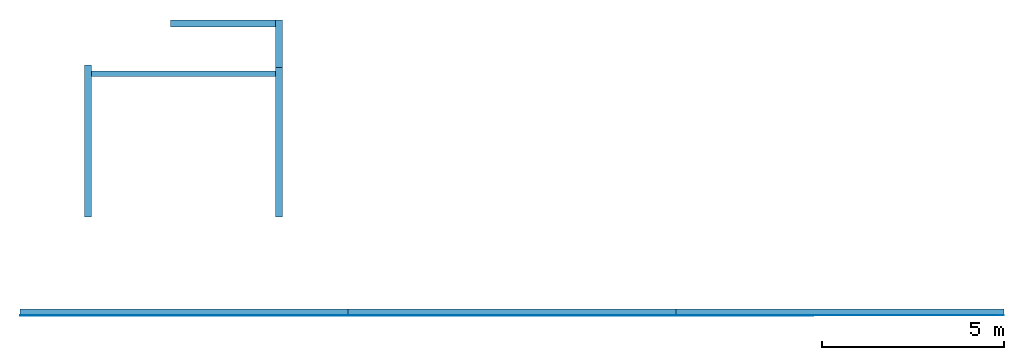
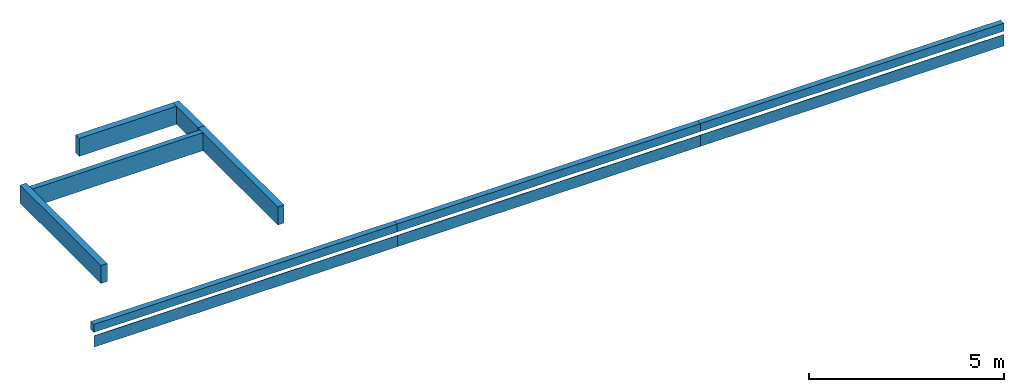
# One storey: 11 walls.
"""IFC2X3 building model written with IfcOpenShell, lengths in millimetres."""

import ifcopenshell
import ifcopenshell.guid

model = None  # the IFC model being written
_history = None  # IfcOwnerHistory: only IFC2X3 demands one
_inside = {}  # id of a spatial element -> (the spatial element, [elements in it])
_under = {}  # id of a project, library or spatial element -> (it, [spatial elements below it])
_declared = {}  # id of a project -> (the project, [libraries it declares])
_typed = {}  # id of a type object -> (the type object, [elements of that type])
_made_of = {}  # id of a material, layer set ... -> (it, [elements and type objects made of it])


def new_model(schema):
    """Start an empty IFC model of exactly this schema.

    Asked for "IFC4X3", IfcOpenShell would pick the latest addendum, in which some entities
    have other attributes; the version numbers below select the first issue.
    IFC2X3 requires an IfcOwnerHistory on every rooted entity: one is made here for all.
    """
    global model, _history
    if schema == "IFC4X3":
        model = ifcopenshell.file(schema_version=(4, 3, 0, 0))
    else:
        model = ifcopenshell.file(schema=schema)
    _inside.clear()
    _under.clear()
    _declared.clear()
    _typed.clear()
    _made_of.clear()
    _history = None
    if model.schema == "IFC2X3":
        org = make("IfcOrganization", Name="unknown")
        user = make(
            "IfcPersonAndOrganization",
            ThePerson=make("IfcPerson", FamilyName="unknown"),
            TheOrganization=org,
        )
        app = make(
            "IfcApplication",
            ApplicationDeveloper=org,
            Version="unknown",
            ApplicationFullName="unknown",
            ApplicationIdentifier="unknown",
        )
        _history = make(
            "IfcOwnerHistory",
            OwningUser=user,
            OwningApplication=app,
            ChangeAction="ADDED",
            CreationDate=0,
        )
    return model


def make(cls, **values):
    """One entity of the class cls with the attributes given. An attribute that is None is left unset."""
    return model.create_entity(
        cls, **{name: value for name, value in values.items() if value is not None}
    )


def entity(cls, *values):
    """Any entity or typed value of the class cls, its attributes in the order of the schema. None: left unset."""
    e = model.create_entity(cls)
    for i, value in enumerate(values):
        if value is not None:
            e[i] = value
    return e


def rooted(cls, **values):
    """An entity with a GlobalId (a new one), such as an element, a storey or a relation."""
    return make(cls, GlobalId=ifcopenshell.guid.new(), OwnerHistory=_history, **values)


def si_unit(unit_type, name, prefix=None):
    """IfcSIUnit, for example si_unit("LENGTHUNIT", "METRE", prefix="MILLI")."""
    return make("IfcSIUnit", UnitType=unit_type, Prefix=prefix, Name=name)


def converted_unit(unit_type, name, factor, base, dimensions=None, offset=None):
    """IfcConversionBasedUnit, such as the inch: factor (a typed value) times the base unit."""
    return make(
        "IfcConversionBasedUnit"
        if offset is None
        else "IfcConversionBasedUnitWithOffset",
        ConversionOffset=offset,
        Dimensions=None
        if dimensions is None
        else entity("IfcDimensionalExponents", *dimensions),
        UnitType=unit_type,
        Name=name,
        ConversionFactor=make(
            "IfcMeasureWithUnit", ValueComponent=factor, UnitComponent=base
        ),
    )


def derived_unit(unit_type, elements):
    """IfcDerivedUnit: a product of units, each with its exponent."""
    return make(
        "IfcDerivedUnit",
        Elements=[
            make("IfcDerivedUnitElement", Unit=unit, Exponent=power)
            for unit, power in elements
        ],
        UnitType=unit_type,
    )


def assignment(units):
    """IfcUnitAssignment: the units of a project."""
    return None if units is None else make("IfcUnitAssignment", Units=units)


def point(xyz):
    """IfcCartesianPoint."""
    return None if xyz is None else make("IfcCartesianPoint", Coordinates=xyz)


def direction(xyz):
    """IfcDirection."""
    return None if xyz is None else make("IfcDirection", DirectionRatios=xyz)


def frame(location, z_axis=None, x_axis=None):
    """IfcAxis2Placement3D, a coordinate frame: its origin and axes. An axis left out is left unset."""
    return make(
        "IfcAxis2Placement3D",
        Location=point(location),
        Axis=direction(z_axis),
        RefDirection=direction(x_axis),
    )


def frame_2d(location, x_axis=None):
    """IfcAxis2Placement2D, a coordinate frame in the plane: its origin and x axis."""
    return make(
        "IfcAxis2Placement2D", Location=point(location), RefDirection=direction(x_axis)
    )


def origin():
    """The frame at (0, 0, 0) with its axes left unset."""
    return frame((0.0, 0.0, 0.0))


def origin_with_axes():
    """The frame at (0, 0, 0) with the z axis (0, 0, 1) and the x axis (1, 0, 0) written out."""
    return frame((0.0, 0.0, 0.0), z_axis=(0.0, 0.0, 1.0), x_axis=(1.0, 0.0, 0.0))


def place(relative_to, where):
    """IfcLocalPlacement: puts the frame where relative to a parent placement (None: the world)."""
    return make(
        "IfcLocalPlacement", PlacementRelTo=relative_to, RelativePlacement=where
    )


def context(
    kind, dimensions, precision=None, world=None, true_north=None, identifier=None
):
    """IfcGeometricRepresentationContext, for example the 3D "Model" context."""
    return make(
        "IfcGeometricRepresentationContext",
        ContextIdentifier=identifier,
        ContextType=kind,
        CoordinateSpaceDimension=dimensions,
        Precision=precision,
        WorldCoordinateSystem=world,
        TrueNorth=true_north,
    )


def subcontext(parent, identifier, kind, view, scale=None):
    """IfcGeometricRepresentationSubContext, for example "Body" below "Model"."""
    return make(
        "IfcGeometricRepresentationSubContext",
        ContextIdentifier=identifier,
        ContextType=kind,
        ParentContext=parent,
        TargetScale=scale,
        TargetView=view,
    )


def project(units=None, contexts=None):
    """IfcProject with its units and contexts."""
    return rooted(
        "IfcProject",
        Name="project",
        RepresentationContexts=contexts,
        UnitsInContext=assignment(units),
    )


def spatial(cls, under=None, at=None, **own):
    """A site, building, storey or space (cls), placed at a placement, below another one or the project."""
    s = rooted(cls, ObjectPlacement=at, **own)
    if under is not None:
        _under.setdefault(under.id(), (under, []))[1].append(s)
    return s


def profile(cls, at=None, kind="AREA", **sizes):
    """A parametric profile (cls). Its sizes go by their IFC names, for example OverallWidth=200.0."""
    return make(cls, ProfileType=kind, Position=at, **sizes)


def rectangle(**sizes):
    """IfcRectangleProfileDef."""
    return profile("IfcRectangleProfileDef", **sizes)


def extrude(swept, where, along, depth):
    """IfcExtrudedAreaSolid: the profile swept, set in the frame where, extruded along a direction by depth."""
    return make(
        "IfcExtrudedAreaSolid",
        SweptArea=swept,
        Position=where,
        ExtrudedDirection=direction(along),
        Depth=depth,
    )


def faces_of(points, faces, orient=None, outer=None):
    """IfcFace entities. A face is a list of loops; a loop is a list of indices into points, from 0.

    orient and outer hold one flag for each loop. By default every Orientation is true, the
    first loop of a face is its IfcFaceOuterBound and the others are IfcFaceBound.
    """
    made = []
    for i, loops in enumerate(faces):
        bounds = []
        for j, loop in enumerate(loops):
            is_outer = j == 0 if outer is None else outer[i][j]
            bounds.append(
                make(
                    "IfcFaceOuterBound" if is_outer else "IfcFaceBound",
                    Bound=make("IfcPolyLoop", Polygon=[points[k] for k in loop]),
                    Orientation=True if orient is None else orient[i][j],
                )
            )
        made.append(make("IfcFace", Bounds=bounds))
    return made


def faceted_brep(points, faces, orient=None, outer=None, voids=None):
    """IfcFacetedBrep: a solid bounded by flat faces; with voids (closed shells), ...WithVoids."""
    shared = [point(p) for p in points]
    hull = make("IfcClosedShell", CfsFaces=faces_of(shared, faces, orient, outer))
    if voids is None:
        return make("IfcFacetedBrep", Outer=hull)
    return make(
        "IfcFacetedBrepWithVoids",
        Outer=hull,
        Voids=[
            make(cls, CfsFaces=faces_of(shared, fs, o, b)) for cls, fs, o, b in voids
        ],
    )


def shape(context_of_items, identifier, shape_type, items):
    """IfcShapeRepresentation: the items that make up one representation, for example the "Body"."""
    return make(
        "IfcShapeRepresentation",
        ContextOfItems=context_of_items,
        RepresentationIdentifier=identifier,
        RepresentationType=shape_type,
        Items=items,
    )


def material(Name=None, Category=None):
    """IfcMaterial."""
    return make("IfcMaterial", Name=Name, Category=Category)


def layer(
    of_material, thickness, ventilated=None, Name=None, Category=None, Priority=None
):
    """IfcMaterialLayer: one layer of a wall or slab, of a material (None: an air gap)."""
    return make(
        "IfcMaterialLayer",
        Material=of_material,
        LayerThickness=thickness,
        IsVentilated=ventilated,
        Name=Name,
        Category=Category,
        Priority=Priority,
    )


def layer_set(layers, Name=None):
    """IfcMaterialLayerSet."""
    return make("IfcMaterialLayerSet", MaterialLayers=layers, LayerSetName=Name)


def layer_usage(for_layer_set, set_direction, sense, offset, extent=None):
    """IfcMaterialLayerSetUsage: how a layer set lies in its element."""
    return make(
        "IfcMaterialLayerSetUsage",
        ForLayerSet=for_layer_set,
        LayerSetDirection=set_direction,
        DirectionSense=sense,
        OffsetFromReferenceLine=offset,
        ReferenceExtent=extent,
    )


def made_of(thing, what):
    """Note that an element or type object is made of a material, layer set ...; save() writes the relation."""
    if what is not None:
        _made_of.setdefault(what.id(), (what, []))[1].append(thing)
    return thing


def type_object(cls, material=None, **own):
    """A type object (cls), such as IfcWallType, which elements share."""
    return made_of(rooted(cls, **own), material)


def element(
    cls,
    number,
    at=None,
    inside=None,
    cuts=None,
    type_object=None,
    material=None,
    context=None,
    identifier="Body",
    shape_type=None,
    held_by="IfcProductDefinitionShape",
    body=None,
    shapes=None,
    **own,
):
    """One element of the class cls, such as IfcWall. Its Tag is "e" and its number.

    at: its placement. inside: the storey or other place that contains it. cuts: it is an
    opening in that element (IfcRelVoidsElement). A single representation is given by context,
    identifier, shape_type and body (its items); several are given by shapes. held_by: the class
    of the entity that holds the representations. save() writes the other relations.
    """
    e = rooted(cls, Tag="e%d" % number, ObjectPlacement=at, **own)
    if body is not None:
        shapes = [shape(context, identifier, shape_type, body)]
    if shapes is not None:
        e.Representation = make(held_by, Representations=shapes)
    if inside is not None:
        _inside.setdefault(inside.id(), (inside, []))[1].append(e)
    if cuts is not None:
        rooted(
            "IfcRelVoidsElement", RelatingBuildingElement=cuts, RelatedOpeningElement=e
        )
    if type_object is not None:
        _typed.setdefault(type_object.id(), (type_object, []))[1].append(e)
    return made_of(e, material)


def aggregate(whole, parts):
    """IfcRelAggregates: a whole, such as a stair, and the parts it consists of."""
    return rooted("IfcRelAggregates", RelatingObject=whole, RelatedObjects=parts)


def save(model, path):
    """Write the relations noted so far, then the file.

    IfcRelAggregates (storeys below a building ...), IfcRelContainedInSpatialStructure (elements
    in a storey), IfcRelDefinesByType, IfcRelAssociatesMaterial and IfcRelDeclares: one each for
    every whole, place, type object, material and project.
    """
    for whole, parts in _under.values():
        aggregate(whole, parts)
    for where, things in _inside.values():
        rooted(
            "IfcRelContainedInSpatialStructure",
            RelatedElements=things,
            RelatingStructure=where,
        )
    for kind, things in _typed.values():
        rooted("IfcRelDefinesByType", RelatedObjects=things, RelatingType=kind)
    for what, things in _made_of.values():
        rooted("IfcRelAssociatesMaterial", RelatedObjects=things, RelatingMaterial=what)
    for by, libraries in _declared.values():
        rooted("IfcRelDeclares", RelatingContext=by, RelatedDefinitions=libraries)
    model.write(path)


model = new_model("IFC2X3")

# Units and contexts
model_context = context("Model", 3, precision=0.01, world=frame((0.0, 4.29681676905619e-09, 0.0)), true_north=direction((4.01073788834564e-13, 1.0)))
plan_context = context("Plan", 3, precision=0.01, world=frame((0.0, 4.29681676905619e-09, 0.0)), true_north=direction((4.01073788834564e-13, 1.0)))
body_context = subcontext(model_context, "Body", "Model", "MODEL_VIEW")
ifc_project = project(units=[converted_unit("PLANEANGLEUNIT", "DEGREE", entity("IfcPositiveLengthMeasure", 0.0174532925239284), si_unit("PLANEANGLEUNIT", "RADIAN"), dimensions=[0, 0, 0, 0, 0, 0, 0]), si_unit("AREAUNIT", "SQUARE_METRE"), si_unit("LENGTHUNIT", "METRE", prefix="MILLI"), si_unit("MASSUNIT", "GRAM", prefix="KILO"), si_unit("POWERUNIT", "WATT"), si_unit("PRESSUREUNIT", "PASCAL", prefix="KILO"), si_unit("FORCEUNIT", "NEWTON", prefix="KILO"), si_unit("ELECTRICVOLTAGEUNIT", "VOLT"), si_unit("ELECTRICCURRENTUNIT", "AMPERE"), si_unit("THERMODYNAMICTEMPERATUREUNIT", "DEGREE_CELSIUS"), si_unit("TIMEUNIT", "SECOND"), si_unit("VOLUMEUNIT", "CUBIC_METRE"), derived_unit("LINEARVELOCITYUNIT", [(si_unit("LENGTHUNIT", "METRE"), 1), (si_unit("TIMEUNIT", "SECOND"), -1)]), derived_unit("VOLUMETRICFLOWRATEUNIT", [(si_unit("VOLUMEUNIT", "CUBIC_METRE"), 1), (si_unit("TIMEUNIT", "SECOND"), -1)]), derived_unit("THERMALTRANSMITTANCEUNIT", [(si_unit("POWERUNIT", "WATT"), 1), (si_unit("THERMODYNAMICTEMPERATUREUNIT", "KELVIN"), -1), (si_unit("AREAUNIT", "SQUARE_METRE"), -1)]), derived_unit("SOUNDPRESSUREUNIT", [(si_unit("PRESSUREUNIT", "PASCAL"), 1)])], contexts=[model_context, plan_context])

# Site, building, storey
site_placement = place(None, origin_with_axes())
site = spatial("IfcSite", under=ifc_project, at=site_placement, Name="ENGM", CompositionType="ELEMENT")
building_placement = place(site_placement, origin_with_axes())
building = spatial("IfcBuilding", under=site, at=building_placement, Name="TG", CompositionType="ELEMENT")
storey_placement = place(building_placement, frame((0.0, 0.0, 207370.000000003), z_axis=(0.0, 0.0, 1.0), x_axis=(1.0, 0.0, 0.0)))
storey = spatial("IfcBuildingStorey", under=building, at=storey_placement, Name="Nivå E", CompositionType="ELEMENT", Elevation=207370.000000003)

# Walls
ifc_material_1 = material(Name="Betong - Multiblokk")
ifc_layer_1 = layer(ifc_material_1, 187.0)
ifc_layer_set_1 = layer_set([ifc_layer_1], Name="Basic Wall:A241 - MH-187")
wall_type_1 = type_object("IfcWallType", Name="Basic Wall:A241 - MH-187", PredefinedType="STANDARD", material=ifc_layer_set_1)
wall_1_placement = place(storey_placement, frame((329016.325000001, 466006.487499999, 0.0), z_axis=(0.0, 0.0, 1.0), x_axis=(-1.0, 0.0, 0.0)))
element("IfcWall", 1, at=wall_1_placement, inside=storey, type_object=wall_type_1, Name="Basic Wall:A241 - MH-187", ObjectType="Basic Wall:A241 - MH-187", context=body_context, shape_type="Brep", body=[
    faceted_brep([(2882.00749988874, 93.5000000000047, 1829.999999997), (2882.00749988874, -93.5000000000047, 1829.999999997), (2882.00749988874, -93.5000000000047, 2394.99999999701), (2882.00749988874, 93.5000000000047, 2394.99999999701), (0.0, 93.5000000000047, 1829.999999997), (0.0, 93.5000000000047, 2394.99999999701), (0.0, -93.5000000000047, 1829.999999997), (0.0, -93.5000000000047, 2394.99999999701)], [[[0, 1, 2, 3]], [[4, 0, 3, 5]], [[6, 4, 5, 7]], [[1, 6, 7, 2]], [[3, 2, 7, 5]], [[4, 6, 1, 0]]], orient=[[False], [False], [False], [False], [False], [False]]),
])
wall_2_placement = place(storey_placement, frame((323863.500000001, 464864.999999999, 0.0), z_axis=(0.0, 0.0, 1.0), x_axis=(0.0, -1.0, 0.0)))
element("IfcWall", 2, at=wall_2_placement, inside=storey, type_object=wall_type_1, Name="Basic Wall:A241 - MH-187", ObjectType="Basic Wall:A241 - MH-187", context=body_context, shape_type="Brep", body=[
    faceted_brep([(4164.99999999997, 93.5000000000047, 1829.999999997), (4164.99999999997, -93.5000000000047, 1829.999999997), (4164.99999999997, -93.5000000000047, 2394.99999999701), (4164.99999999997, 93.5000000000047, 2394.99999999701), (0.0, 93.5000000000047, 1829.999999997), (0.0, 93.5000000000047, 2394.99999999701), (0.0, -93.5000000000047, 1829.999999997), (0.0, -93.5000000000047, 2394.99999999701)], [[[0, 1, 2, 3]], [[4, 0, 3, 5]], [[6, 4, 5, 7]], [[1, 6, 7, 2]], [[3, 2, 7, 5]], [[4, 6, 1, 0]]], orient=[[False], [False], [False], [False], [False], [False]]),
])
wall_3_placement = place(storey_placement, frame((329109.825000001, 464797.882276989, 0.0), z_axis=(0.0, 0.0, 1.0), x_axis=(0.0, 1.0, 0.0)))
element("IfcWall", 3, at=wall_3_placement, inside=storey, type_object=wall_type_1, Name="Basic Wall:A241 - MH-187", ObjectType="Basic Wall:A241 - MH-187", context=body_context, shape_type="Brep", body=[
    faceted_brep([(1302.10522301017, 93.5000000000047, 1829.999999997), (1302.10522301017, -93.5000000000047, 1829.999999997), (1302.10522301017, -93.5000000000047, 2394.99999999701), (1302.10522301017, 93.5000000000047, 2394.99999999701), (0.0, 93.5000000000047, 1829.999999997), (0.0, 93.5000000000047, 2394.99999999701), (0.0, -93.5000000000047, 1829.999999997), (0.0, -93.5000000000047, 2394.99999999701)], [[[0, 1, 2, 3]], [[4, 0, 3, 5]], [[6, 4, 5, 7]], [[1, 6, 7, 2]], [[3, 2, 7, 5]], [[4, 6, 1, 0]]], orient=[[False], [False], [False], [False], [False], [False]]),
])
wall_4_placement = place(storey_placement, frame((329109.825000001, 460699.999999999, 0.0), z_axis=(0.0, 0.0, 1.0), x_axis=(0.0, 1.0, 0.0)))
element("IfcWall", 4, at=wall_4_placement, inside=storey, type_object=wall_type_1, Name="Basic Wall:A241 - MH-187", ObjectType="Basic Wall:A241 - MH-187", context=body_context, shape_type="Brep", body=[
    faceted_brep([(4097.88227699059, 93.5000000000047, 1829.999999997), (4097.88227699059, -93.5000000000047, 1829.999999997), (4097.88227699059, -93.5000000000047, 2394.99999999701), (4097.88227699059, 93.5000000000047, 2394.99999999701), (0.0, 93.5000000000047, 1829.999999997), (0.0, 93.5000000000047, 2394.99999999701), (0.0, -93.5000000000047, 1829.999999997), (0.0, -93.5000000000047, 2394.99999999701)], [[[0, 1, 2, 3]], [[4, 0, 3, 5]], [[6, 4, 5, 7]], [[1, 6, 7, 2]], [[3, 2, 7, 5]], [[4, 6, 1, 0]]], orient=[[False], [False], [False], [False], [False], [False]]),
])
ifc_material_2 = material(Name="Plate - Gips")
ifc_layer_2 = layer(ifc_material_2, 12.5)
ifc_layer_3 = layer(ifc_material_2, 12.5)
ifc_material_3 = material(Name="_NSW Stålstender, uisolert")
ifc_layer_4 = layer(ifc_material_3, 100.0)
ifc_layer_5 = layer(ifc_material_2, 12.5)
ifc_layer_6 = layer(ifc_material_2, 12.5)
ifc_layer_set_2 = layer_set([ifc_layer_2, ifc_layer_3, ifc_layer_4, ifc_layer_5, ifc_layer_6], Name="Basic Wall:A241 - SVS-101")
wall_type_2 = type_object("IfcWallType", Name="Basic Wall:A241 - SVS-101", PredefinedType="STANDARD", material=ifc_layer_set_2)
wall_5_placement = place(storey_placement, frame((329016.325000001, 464623.124999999, 0.0), z_axis=(0.0, 0.0, 1.0), x_axis=(-1.0, 0.0, 0.0)))
element("IfcWall", 5, at=wall_5_placement, inside=storey, type_object=wall_type_2, Name="Basic Wall:A241 - SVS-101", ObjectType="Basic Wall:A241 - SVS-101", context=body_context, shape_type="Brep", body=[
    faceted_brep([(0.0, -75.0000000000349, 1829.999999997), (0.0, 74.9999999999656, 1829.999999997), (0.0, 74.9999999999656, 2394.99999999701), (0.0, -75.0000000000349, 2394.99999999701), (5059.32500000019, -75.0000000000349, 1829.999999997), (5059.32500000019, -75.0000000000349, 2394.99999999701), (5059.32500000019, 74.9999999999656, 1829.999999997), (5059.32500000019, 74.9999999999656, 2394.99999999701)], [[[0, 1, 2, 3]], [[4, 0, 3, 5]], [[6, 4, 5, 7]], [[1, 6, 7, 2]], [[3, 2, 7, 5]], [[4, 6, 1, 0]]], orient=[[False], [False], [False], [False], [False], [False]]),
])
ifc_material_4 = material(Name="_NSW Isolasjon")
ifc_layer_7 = layer(ifc_material_4, 165.0)
ifc_layer_set_3 = layer_set([ifc_layer_7], Name="Basic Wall:A231 - ISO-165")
ifc_layer_usage_1 = layer_usage(ifc_layer_set_3, "AXIS2", "POSITIVE", -82.5)
wall_type_3 = type_object("IfcWallType", Name="Basic Wall:A231 - ISO-165", PredefinedType="STANDARD", material=ifc_layer_set_3)
wall_6_placement = place(storey_placement, frame((322000.000000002, 458082.5, 2554.99999999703), z_axis=(0.0, 0.0, 1.0), x_axis=(1.0, 0.0, 0.0)))
element("IfcWallStandardCase", 6, at=wall_6_placement, inside=storey, type_object=wall_type_3, material=ifc_layer_usage_1, Name="Basic Wall:A231 - ISO-165", ObjectType="Basic Wall:A231 - ISO-165", context=body_context, shape_type="SweptSolid", body=[
    extrude(rectangle(XDim=9000.00000000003, YDim=164.99999999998, at=frame_2d((4500.00000000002, 1.72875047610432e-11), x_axis=(-1.0, 0.0))), origin(), (0.0, 0.0, 1.0), 249.999999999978),
])
ifc_layer_usage_2 = layer_usage(ifc_layer_set_3, "AXIS2", "POSITIVE", -82.5)
wall_7_placement = place(storey_placement, frame((331000.000000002, 458082.5, 2554.99999999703), z_axis=(0.0, 0.0, 1.0), x_axis=(1.0, 0.0, 0.0)))
element("IfcWallStandardCase", 7, at=wall_7_placement, inside=storey, type_object=wall_type_3, material=ifc_layer_usage_2, Name="Basic Wall:A231 - ISO-165", ObjectType="Basic Wall:A231 - ISO-165", context=body_context, shape_type="SweptSolid", body=[
    extrude(rectangle(XDim=9000.00000000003, YDim=164.99999999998, at=frame_2d((4500.00000000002, 1.72875047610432e-11), x_axis=(-1.0, 0.0))), origin(), (0.0, 0.0, 1.0), 249.999999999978),
])
ifc_layer_usage_3 = layer_usage(ifc_layer_set_3, "AXIS2", "POSITIVE", -82.5)
wall_8_placement = place(storey_placement, frame((340000.000000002, 458082.5, 2554.99999999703), z_axis=(0.0, 0.0, 1.0), x_axis=(1.0, 0.0, 0.0)))
element("IfcWallStandardCase", 8, at=wall_8_placement, inside=storey, type_object=wall_type_3, material=ifc_layer_usage_3, Name="Basic Wall:A231 - ISO-165", ObjectType="Basic Wall:A231 - ISO-165", context=body_context, shape_type="SweptSolid", body=[
    extrude(rectangle(XDim=9000.00000000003, YDim=164.99999999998, at=frame_2d((4500.00000000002, 1.72875047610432e-11), x_axis=(-1.0, 0.0))), origin(), (0.0, 0.0, 1.0), 249.999999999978),
])
ifc_material_5 = material(Name="T2_Metal_Aluminium")
ifc_layer_8 = layer(ifc_material_5, 1.0)
ifc_material_6 = material(Name="T2_X-finer")
ifc_layer_9 = layer(ifc_material_6, 15.0)
ifc_layer_set_4 = layer_set([ifc_layer_8, ifc_layer_9], Name="Basic Wall:A231 - X-finer med beslag")
ifc_layer_usage_4 = layer_usage(ifc_layer_set_4, "AXIS2", "POSITIVE", -8.0)
wall_type_4 = type_object("IfcWallType", Name="Basic Wall:A231 - X-finer med beslag", PredefinedType="STANDARD", material=ifc_layer_set_4)
wall_9_placement = place(storey_placement, frame((322000.000000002, 457997.237500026, 2097.99999999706), z_axis=(0.0, 0.0, 1.0), x_axis=(1.0, 0.0, 0.0)))
element("IfcWallStandardCase", 9, at=wall_9_placement, inside=storey, type_object=wall_type_4, material=ifc_layer_usage_4, Name="Basic Wall:A231 - X-finer med beslag", ObjectType="Basic Wall:A231 - X-finer med beslag", context=body_context, shape_type="SweptSolid", body=[
    extrude(rectangle(XDim=9000.00000000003, YDim=15.9999999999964, at=frame_2d((4500.00000000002, -1.73594472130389e-11), x_axis=(-1.0, 0.0))), origin(), (0.0, 0.0, 1.0), 354.999999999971),
])
ifc_layer_usage_5 = layer_usage(ifc_layer_set_4, "AXIS2", "POSITIVE", -8.0)
wall_10_placement = place(storey_placement, frame((331000.000000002, 457997.237500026, 2097.99999999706), z_axis=(0.0, 0.0, 1.0), x_axis=(1.0, 0.0, 0.0)))
element("IfcWallStandardCase", 10, at=wall_10_placement, inside=storey, type_object=wall_type_4, material=ifc_layer_usage_5, Name="Basic Wall:A231 - X-finer med beslag", ObjectType="Basic Wall:A231 - X-finer med beslag", context=body_context, shape_type="SweptSolid", body=[
    extrude(rectangle(XDim=9000.00000000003, YDim=15.9999999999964, at=frame_2d((4500.00000000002, -1.73594472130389e-11), x_axis=(-1.0, 0.0))), origin(), (0.0, 0.0, 1.0), 354.999999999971),
])
ifc_layer_usage_6 = layer_usage(ifc_layer_set_4, "AXIS2", "POSITIVE", -8.0)
wall_11_placement = place(storey_placement, frame((340000.000000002, 457997.237500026, 2097.99999999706), z_axis=(0.0, 0.0, 1.0), x_axis=(1.0, 0.0, 0.0)))
element("IfcWallStandardCase", 11, at=wall_11_placement, inside=storey, type_object=wall_type_4, material=ifc_layer_usage_6, Name="Basic Wall:A231 - X-finer med beslag", ObjectType="Basic Wall:A231 - X-finer med beslag", context=body_context, shape_type="SweptSolid", body=[
    extrude(rectangle(XDim=9000.00000000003, YDim=15.9999999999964, at=frame_2d((4500.00000000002, -1.73594472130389e-11), x_axis=(-1.0, 0.0))), origin(), (0.0, 0.0, 1.0), 354.999999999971),
])

save(model, "model.ifc")
